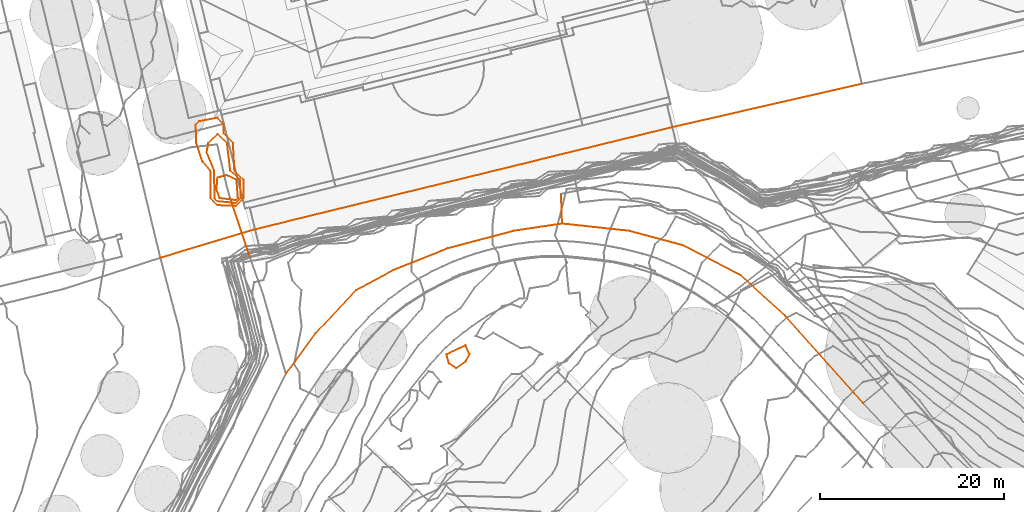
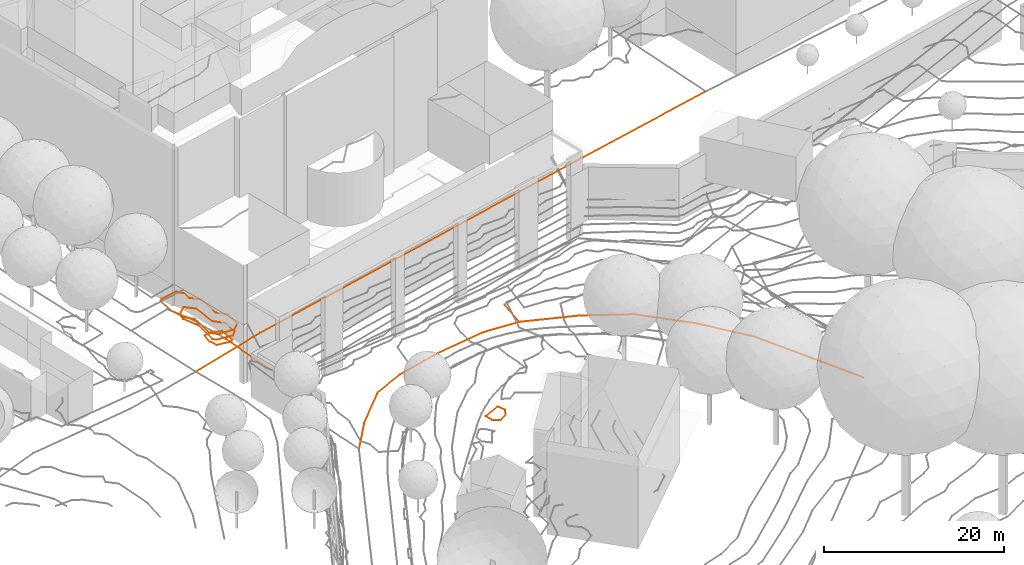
# Not in any storey, part 169 of 477: 6 civil elements, 4 geographic elements.
"""IFC4 model written with IfcOpenShell, lengths in metres."""

import ifcopenshell
import ifcopenshell.guid

model = None  # the IFC model being written
_history = None  # IfcOwnerHistory: only IFC2X3 demands one
_inside = {}  # id of a spatial element -> (the spatial element, [elements in it])
_under = {}  # id of a project, library or spatial element -> (it, [spatial elements below it])
_declared = {}  # id of a project -> (the project, [libraries it declares])
_typed = {}  # id of a type object -> (the type object, [elements of that type])
_made_of = {}  # id of a material, layer set ... -> (it, [elements and type objects made of it])


def new_model(schema):
    """Start an empty IFC model of exactly this schema.

    Asked for "IFC4X3", IfcOpenShell would pick the latest addendum, in which some entities
    have other attributes; the version numbers below select the first issue.
    IFC2X3 requires an IfcOwnerHistory on every rooted entity: one is made here for all.
    """
    global model, _history
    if schema == "IFC4X3":
        model = ifcopenshell.file(schema_version=(4, 3, 0, 0))
    else:
        model = ifcopenshell.file(schema=schema)
    _inside.clear()
    _under.clear()
    _declared.clear()
    _typed.clear()
    _made_of.clear()
    _history = None
    if model.schema == "IFC2X3":
        org = make("IfcOrganization", Name="unknown")
        user = make(
            "IfcPersonAndOrganization",
            ThePerson=make("IfcPerson", FamilyName="unknown"),
            TheOrganization=org,
        )
        app = make(
            "IfcApplication",
            ApplicationDeveloper=org,
            Version="unknown",
            ApplicationFullName="unknown",
            ApplicationIdentifier="unknown",
        )
        _history = make(
            "IfcOwnerHistory",
            OwningUser=user,
            OwningApplication=app,
            ChangeAction="ADDED",
            CreationDate=0,
        )
    return model


def make(cls, **values):
    """One entity of the class cls with the attributes given. An attribute that is None is left unset."""
    return model.create_entity(
        cls, **{name: value for name, value in values.items() if value is not None}
    )


def entity(cls, *values):
    """Any entity or typed value of the class cls, its attributes in the order of the schema. None: left unset."""
    e = model.create_entity(cls)
    for i, value in enumerate(values):
        if value is not None:
            e[i] = value
    return e


def rooted(cls, **values):
    """An entity with a GlobalId (a new one), such as an element, a storey or a relation."""
    return make(cls, GlobalId=ifcopenshell.guid.new(), OwnerHistory=_history, **values)


def si_unit(unit_type, name, prefix=None):
    """IfcSIUnit, for example si_unit("LENGTHUNIT", "METRE", prefix="MILLI")."""
    return make("IfcSIUnit", UnitType=unit_type, Prefix=prefix, Name=name)


def assignment(units):
    """IfcUnitAssignment: the units of a project."""
    return None if units is None else make("IfcUnitAssignment", Units=units)


def point(xyz):
    """IfcCartesianPoint."""
    return None if xyz is None else make("IfcCartesianPoint", Coordinates=xyz)


def direction(xyz):
    """IfcDirection."""
    return None if xyz is None else make("IfcDirection", DirectionRatios=xyz)


def frame(location, z_axis=None, x_axis=None):
    """IfcAxis2Placement3D, a coordinate frame: its origin and axes. An axis left out is left unset."""
    return make(
        "IfcAxis2Placement3D",
        Location=point(location),
        Axis=direction(z_axis),
        RefDirection=direction(x_axis),
    )


def origin_with_axes():
    """The frame at (0, 0, 0) with the z axis (0, 0, 1) and the x axis (1, 0, 0) written out."""
    return frame((0.0, 0.0, 0.0), z_axis=(0.0, 0.0, 1.0), x_axis=(1.0, 0.0, 0.0))


def place(relative_to, where):
    """IfcLocalPlacement: puts the frame where relative to a parent placement (None: the world)."""
    return make(
        "IfcLocalPlacement", PlacementRelTo=relative_to, RelativePlacement=where
    )


def context(
    kind, dimensions, precision=None, world=None, true_north=None, identifier=None
):
    """IfcGeometricRepresentationContext, for example the 3D "Model" context."""
    return make(
        "IfcGeometricRepresentationContext",
        ContextIdentifier=identifier,
        ContextType=kind,
        CoordinateSpaceDimension=dimensions,
        Precision=precision,
        WorldCoordinateSystem=world,
        TrueNorth=true_north,
    )


def subcontext(parent, identifier, kind, view, scale=None):
    """IfcGeometricRepresentationSubContext, for example "Body" below "Model"."""
    return make(
        "IfcGeometricRepresentationSubContext",
        ContextIdentifier=identifier,
        ContextType=kind,
        ParentContext=parent,
        TargetScale=scale,
        TargetView=view,
    )


def project(units=None, contexts=None):
    """IfcProject with its units and contexts."""
    return rooted(
        "IfcProject",
        Name="project",
        RepresentationContexts=contexts,
        UnitsInContext=assignment(units),
    )


def spatial(cls, under=None, at=None, **own):
    """A site, building, storey or space (cls), placed at a placement, below another one or the project."""
    s = rooted(cls, ObjectPlacement=at, **own)
    if under is not None:
        _under.setdefault(under.id(), (under, []))[1].append(s)
    return s


def shape(context_of_items, identifier, shape_type, items):
    """IfcShapeRepresentation: the items that make up one representation, for example the "Body"."""
    return make(
        "IfcShapeRepresentation",
        ContextOfItems=context_of_items,
        RepresentationIdentifier=identifier,
        RepresentationType=shape_type,
        Items=items,
    )


def made_of(thing, what):
    """Note that an element or type object is made of a material, layer set ...; save() writes the relation."""
    if what is not None:
        _made_of.setdefault(what.id(), (what, []))[1].append(thing)
    return thing


def element(
    cls,
    number,
    at=None,
    inside=None,
    cuts=None,
    type_object=None,
    material=None,
    context=None,
    identifier="Body",
    shape_type=None,
    held_by="IfcProductDefinitionShape",
    body=None,
    shapes=None,
    **own,
):
    """One element of the class cls, such as IfcWall. Its Tag is "e" and its number.

    at: its placement. inside: the storey or other place that contains it. cuts: it is an
    opening in that element (IfcRelVoidsElement). A single representation is given by context,
    identifier, shape_type and body (its items); several are given by shapes. held_by: the class
    of the entity that holds the representations. save() writes the other relations.
    """
    e = rooted(cls, Tag="e%d" % number, ObjectPlacement=at, **own)
    if body is not None:
        shapes = [shape(context, identifier, shape_type, body)]
    if shapes is not None:
        e.Representation = make(held_by, Representations=shapes)
    if inside is not None:
        _inside.setdefault(inside.id(), (inside, []))[1].append(e)
    if cuts is not None:
        rooted(
            "IfcRelVoidsElement", RelatingBuildingElement=cuts, RelatedOpeningElement=e
        )
    if type_object is not None:
        _typed.setdefault(type_object.id(), (type_object, []))[1].append(e)
    return made_of(e, material)


def aggregate(whole, parts):
    """IfcRelAggregates: a whole, such as a stair, and the parts it consists of."""
    return rooted("IfcRelAggregates", RelatingObject=whole, RelatedObjects=parts)


def save(model, path):
    """Write the relations noted so far, then the file.

    IfcRelAggregates (storeys below a building ...), IfcRelContainedInSpatialStructure (elements
    in a storey), IfcRelDefinesByType, IfcRelAssociatesMaterial and IfcRelDeclares: one each for
    every whole, place, type object, material and project.
    """
    for whole, parts in _under.values():
        aggregate(whole, parts)
    for where, things in _inside.values():
        rooted(
            "IfcRelContainedInSpatialStructure",
            RelatedElements=things,
            RelatingStructure=where,
        )
    for kind, things in _typed.values():
        rooted("IfcRelDefinesByType", RelatedObjects=things, RelatingType=kind)
    for what, things in _made_of.values():
        rooted("IfcRelAssociatesMaterial", RelatedObjects=things, RelatingMaterial=what)
    for by, libraries in _declared.values():
        rooted("IfcRelDeclares", RelatingContext=by, RelatedDefinitions=libraries)
    model.write(path)


model = new_model("IFC4")

# Units and contexts
model_context = context("Model", 3, precision=1e-05, world=origin_with_axes())
body_context = subcontext(model_context, "Body", "Model", "MODEL_VIEW")
ifc_project = project(units=[si_unit("AREAUNIT", "SQUARE_METRE"), si_unit("LENGTHUNIT", "METRE")], contexts=[model_context])

# Sites
site_1_placement = place(None, origin_with_axes())
site_1 = spatial("IfcSite", under=ifc_project, at=site_1_placement, Name="Topoexport Site")
site_2_placement = place(site_1_placement, origin_with_axes())
site_2 = spatial("IfcSite", under=site_1, at=site_2_placement, Name="TPX_ROADS")

# Civil elements
civil_element_1_placement = place(site_2_placement, frame((317.1277320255, 300.0537340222, 531.942), z_axis=(0.0, 0.0, 1.0), x_axis=(1.0, 0.0, 0.0)))
element("IfcCivilElement", 1, at=civil_element_1_placement, inside=site_2, Name="Road 16", ObjectType="ROAD", context=body_context, shape_type="GeometricCurveSet", body=[
    entity("IfcGeometricCurveSet", [entity("IfcIndexedPolyCurve", entity("IfcCartesianPointList3D", [[0.0, 0.0, 0.0], [3.2310000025, 4.40599986, -0.201], [7.6359999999, 9.1049997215, -0.519], [11.7479999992, 11.3069996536, -0.855], [17.6209999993, 13.6569995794, -1.628], [24.8159999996, 15.5659995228, -2.299]]))]),
])
civil_element_2_placement = place(site_2_placement, frame((347.0817320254, 319.6287334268, 529.181), z_axis=(0.0, 0.0, 1.0), x_axis=(1.0, 0.0, 0.0)))
element("IfcCivilElement", 2, at=civil_element_2_placement, inside=site_2, Name="Road 19", ObjectType="ROAD", context=body_context, shape_type="GeometricCurveSet", body=[
    entity("IfcGeometricCurveSet", [entity("IfcIndexedPolyCurve", entity("IfcCartesianPointList3D", [[0.0, 0.0, 0.0], [0.1040000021, -3.2269999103, -0.415]]))]),
])
civil_element_3_placement = place(site_2_placement, frame((341.9437320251, 315.619733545, 529.643), z_axis=(0.0, 0.0, 1.0), x_axis=(1.0, 0.0, 0.0)))
element("IfcCivilElement", 3, at=civil_element_3_placement, inside=site_2, Name="Road 20", ObjectType="ROAD", context=body_context, shape_type="GeometricCurveSet", body=[
    entity("IfcGeometricCurveSet", [entity("IfcIndexedPolyCurve", entity("IfcCartesianPointList3D", [[0.0, 0.0, 0.0], [5.2420000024, 0.7819999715, -0.877]]))]),
])
civil_element_4_placement = place(site_2_placement, frame((303.471732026, 312.6817336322, 539.561), z_axis=(0.0, 0.0, 1.0), x_axis=(1.0, 0.0, 0.0)))
element("IfcCivilElement", 4, at=civil_element_4_placement, inside=site_2, Name="Road 48", ObjectType="ROAD", context=body_context, shape_type="GeometricCurveSet", body=[
    entity("IfcGeometricCurveSet", [entity("IfcIndexedPolyCurve", entity("IfcCartesianPointList3D", [[76.3590000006, 18.9439994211, -0.199], [55.7499999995, 14.2249995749, -0.283], [10.0139999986, 3.0249999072, -0.061], [8.876000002, 2.6819999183, -0.054], [0.0, 0.0, 0.0]]))]),
])
civil_element_5_placement = place(site_2_placement, frame((311.0807320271, 319.1497334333, 537.398), z_axis=(0.0, 0.0, 1.0), x_axis=(1.0, 0.0, 0.0)))
element("IfcCivilElement", 5, at=civil_element_5_placement, inside=site_2, Name="Road 72", ObjectType="ROAD", context=body_context, shape_type="GeometricCurveSet", body=[
    entity("IfcGeometricCurveSet", [entity("IfcIndexedPolyCurve", entity("IfcCartesianPointList3D", [[2.1199999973, -6.3309998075, -1.125], [1.2670000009, -3.7859998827, -0.672], [0.0, 0.0, 0.0]]))]),
])
civil_element_6_placement = place(site_2_placement, frame((347.1857320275, 316.4017335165, 528.766), z_axis=(0.0, 0.0, 1.0), x_axis=(1.0, 0.0, 0.0)))
element("IfcCivilElement", 6, at=civil_element_6_placement, inside=site_2, Name="Road 112", ObjectType="ROAD", context=body_context, shape_type="GeometricCurveSet", body=[
    entity("IfcGeometricCurveSet", [entity("IfcIndexedPolyCurve", entity("IfcCartesianPointList3D", [[0.0, 0.0, 0.0], [7.2409999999, -0.7819999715, -1.203], [13.2609999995, -2.3969999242, -2.153], [19.4279999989, -5.6279998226, -3.609], [24.274999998, -10.0329996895, -4.417], [32.7929999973, -19.5399994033, -7.163]]))]),
])

# Site
site_3_placement = place(site_1_placement, origin_with_axes())
site_3 = spatial("IfcSite", under=site_1, at=site_3_placement, Name="TPX_CONTOUR_LINES")

# Geographic elements
geographic_element_1_placement = place(site_3_placement, frame((309.5651791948, 320.1707160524, 537.0), z_axis=(0.0, 0.0, 1.0), x_axis=(1.0, 0.0, 0.0)))
element("IfcGeographicElement", 7, at=geographic_element_1_placement, inside=site_3, Name="Contour Line 537.0 m", PredefinedType="NOTDEFINED", context=body_context, shape_type="GeometricCurveSet", body=[
    entity("IfcGeometricCurveSet", [entity("IfcIndexedPolyCurve", entity("IfcCartesianPointList3D", [[2.1125528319, -1.2243100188, 0.0], [2.3401455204, -1.0, 0.0], [2.1861856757, 1.0, 0.0], [1.1125528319, 1.5011436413, 0.0], [0.1125528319, 1.2496487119, 0.0], [0.0, 0.0, 0.0], [0.3530089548, -1.0, 0.0], [2.1125528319, -1.2243100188, 0.0]]))]),
])
geographic_element_2_placement = place(site_3_placement, frame((308.5028148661, 324.1707160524, 538.0), z_axis=(0.0, 0.0, 1.0), x_axis=(1.0, 0.0, 0.0)))
element("IfcGeographicElement", 8, at=geographic_element_2_placement, inside=site_3, Name="Contour Line 538.0 m", PredefinedType="NOTDEFINED", context=body_context, shape_type="GeometricCurveSet", body=[
    entity("IfcGeometricCurveSet", [entity("IfcIndexedPolyCurve", entity("IfcCartesianPointList3D", [[3.1749171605, -5.5340264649, 0.0], [3.7167588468, -5.0, 0.0], [3.6239079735, -3.0, 0.0], [2.5670702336, -2.0, 0.0], [2.2181118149, 1.0, 0.0], [1.1749171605, 1.9685039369, 0.0], [0.1749171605, 0.9988532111, 0.0], [0.0, 0.0, 0.0], [0.8309624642, -2.0, 0.0], [0.8481909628, -5.0, 0.0], [1.1749171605, -5.3412231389, 0.0], [3.1749171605, -5.5340264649, 0.0]]))]),
])
geographic_element_3_placement = place(site_3_placement, frame((307.3123142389, 327.1707160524, 539.0), z_axis=(0.0, 0.0, 1.0), x_axis=(1.0, 0.0, 0.0)))
element("IfcGeographicElement", 9, at=geographic_element_3_placement, inside=site_3, Name="Contour Line 539.0 m", PredefinedType="NOTDEFINED", context=body_context, shape_type="GeometricCurveSet", body=[
    entity("IfcGeometricCurveSet", [entity("IfcIndexedPolyCurve", entity("IfcCartesianPointList3D", [[4.3654177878, -8.8437429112, 0.0], [5.2215084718, -8.0, 0.0], [5.18976657, -6.0, 0.0], [4.2099426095, -5.0, 0.0], [4.0602710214, -2.0, 0.0], [3.0515773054, -1.0, 0.0], [3.0502862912, 0.0, 0.0], [2.3654177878, 0.7665668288, 0.0], [0.3654177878, 0.3619958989, 0.0], [0.0, 0.0, 0.0], [0.0557724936, -2.0, 0.0], [0.733920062, -4.0, 0.0], [1.5938945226, -5.0, 0.0], [1.6265673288, -8.0, 0.0], [2.3654177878, -8.7716334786, 0.0], [4.3654177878, -8.8437429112, 0.0]]))]),
])
geographic_element_4_placement = place(site_3_placement, frame((334.6060653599, 302.1707160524, 529.0), z_axis=(0.0, 0.0, 1.0), x_axis=(1.0, 0.0, 0.0)))
element("IfcGeographicElement", 10, at=geographic_element_4_placement, inside=site_3, Name="Contour Line 529.0 m", PredefinedType="NOTDEFINED", context=body_context, shape_type="GeometricCurveSet", body=[
    entity("IfcGeometricCurveSet", [entity("IfcIndexedPolyCurve", entity("IfcCartesianPointList3D", [[1.0716666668, -1.493647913, 0.0], [2.0716666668, -0.7979452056, 0.0], [2.5047521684, 0.0, 0.0], [2.0716666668, 0.9810526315, 0.0], [0.0, 0.0, 0.0], [0.2645450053, -1.0, 0.0], [1.0716666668, -1.493647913, 0.0]]))]),
])

save(model, "model.ifc")
